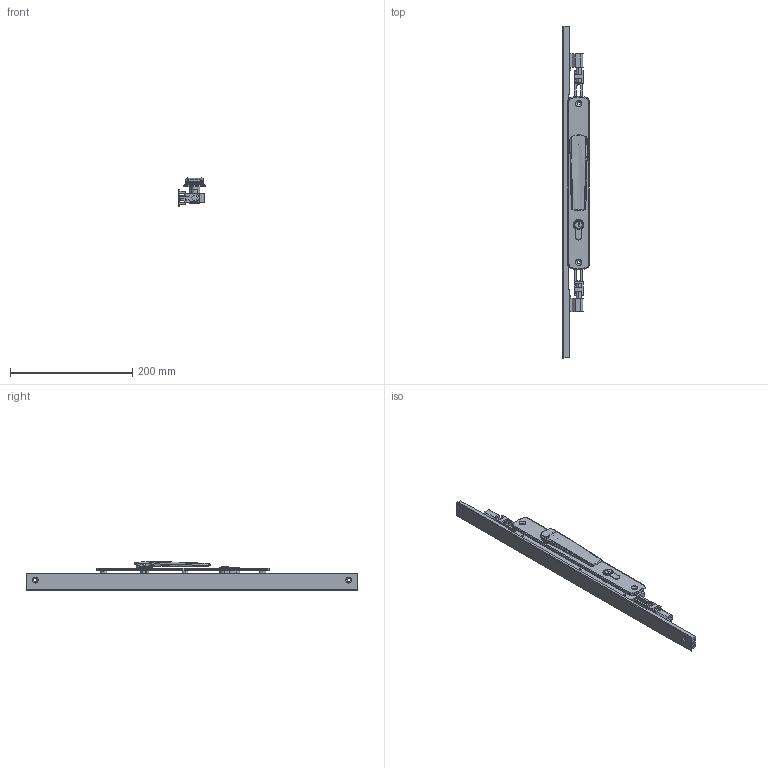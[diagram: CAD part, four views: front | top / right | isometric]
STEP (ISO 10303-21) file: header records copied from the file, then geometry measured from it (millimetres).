
FILE_DESCRIPTION (( 'STEP AP214' ), '1' );
FILE_NAME ('TPL-W-EU-621-L 06Nov2024.STEP', '2024-11-27T05:31:25', ( '' ), ( '' ), 'SwSTEP 2.0', 'SolidWorks 2023', '' );
FILE_SCHEMA (( 'AUTOMOTIVE_DESIGN' ));
Length unit declared in the file: millimetre
Products named in the file (19): Copy of TPL-W-EU-130 04Nov2024^TPL-W-EU-121 04Nov2024_TPL-022 Right; Copy of Copy of Copy of LKC-531 Lock twinpoint transmission rod wood system^TPL-W-EU-121 04Nov2024_Standard Range 2891.7mm; Copy of Adapter DnF - simplfied^TPL-W-EU-121 04Nov2024_26mm backset; Copy of TPGen2 handle keyed internal zinc - simplified^TPL-W-EU-121 04Nov2024_Vertical; Copy (2) of COV-112-B Cover B suit TPLGen2 standard range^TPL-W-EU-121 04Nov2024_2870mm; Copy of COV-112-A Cover A suit TPLGen2 standard range^TPL-W-EU-121 04Nov2024_2870mm; Copy of LKC-512 Escutcheon plate keyed internal 285mm long zinc - simplified^Copy of TPGen2 handle keyed internal zinc - simplified_TPL-W-EU-121 04Nov2024; Copy of LKC-584 Pivot body zinc - simplified^Copy of TPGen2 handle keyed internal zinc - simplified_TPL-W-EU-121 04Nov2024; Copy of TPLGen2 lock body keyed^Copy of TPLGen2 lock body keyed assembly_TPL-W-EU-121 04Nov2024; Copy of LKC-585 Rotator body zinc^Copy of TPGen2 handle keyed internal zinc - simplified_TPL-W-EU-121 04Nov2024; TPL-W-EU-621-L 06Nov2024; Copy of LKC-586 Spindle square 8mm with M4 hole^Copy of TPGen2 handle keyed internal zinc - simplified_TPL-W-EU-121 04Nov2024_25mm; Copy of TPLGen2 lock body keyed assembly^TPL-W-EU-121 04Nov2024_Bolts extended; Copy of Adapter CnE - simplfied^TPL-W-EU-121 04Nov2024_26mm backset; Copy of LKC-505 Swing handle zinc - simplified^Copy of TPGen2 handle keyed internal zinc - simplified_TPL-W-EU-121 04Nov2024; Copy of COV-112-C Cover C TPLGen2 Lock body^TPL-W-EU-121 04Nov2024; Copy of Copy of LKC-531 Lock twinpoint transmission rod wood system^TPL-W-EU-121 04Nov2024_Standard Range 2891.7mm; Bolt.step; TPLGen2 push rod - simplified^Copy of TPLGen2 lock body keyed assembly_TPL-W-EU-121 04Nov2024_Female thread M10
Assembly tree (16 placements, depth 3):
  Copy (2) of COV-112-B Cover B suit TPLGen2 standard range^TPL-W-EU-121 04Nov2024_2870mm
  Copy of COV-112-A Cover A suit TPLGen2 standard range^TPL-W-EU-121 04Nov2024_2870mm
  TPL-W-EU-621-L 06Nov2024
    Copy of TPLGen2 lock body keyed assembly^TPL-W-EU-121 04Nov2024_Bolts extended
      Copy of TPLGen2 lock body keyed^Copy of TPLGen2 lock body keyed assembly_TPL-W-EU-121 04Nov2024
      TPLGen2 push rod - simplified^Copy of TPLGen2 lock body keyed assembly_TPL-W-EU-121 04Nov2024_Female thread M10  x2
    Copy of TPGen2 handle keyed internal zinc - simplified^TPL-W-EU-121 04Nov2024_Vertical
      Copy of LKC-512 Escutcheon plate keyed internal 285mm long zinc - simplified^Copy of TPGen2 handle keyed internal zinc - simplified_TPL-W-EU-121 04Nov2024
      Copy of LKC-505 Swing handle zinc - simplified^Copy of TPGen2 handle keyed internal zinc - simplified_TPL-W-EU-121 04Nov2024
      Copy of LKC-585 Rotator body zinc^Copy of TPGen2 handle keyed internal zinc - simplified_TPL-W-EU-121 04Nov2024
      Copy of LKC-586 Spindle square 8mm with M4 hole^Copy of TPGen2 handle keyed internal zinc - simplified_TPL-W-EU-121 04Nov2024_25mm
      Copy of LKC-584 Pivot body zinc - simplified^Copy of TPGen2 handle keyed internal zinc - simplified_TPL-W-EU-121 04Nov2024
    Copy of TPL-W-EU-130 04Nov2024^TPL-W-EU-121 04Nov2024_TPL-022 Right
    Copy of COV-112-C Cover C TPLGen2 Lock body^TPL-W-EU-121 04Nov2024
    Copy of Copy of LKC-531 Lock twinpoint transmission rod wood system^TPL-W-EU-121 04Nov2024_Standard Range 2891.7mm
    Copy of Copy of Copy of LKC-531 Lock twinpoint transmission rod wood system^TPL-W-EU-121 04Nov2024_Standard Range 2891.7mm
    Copy of Adapter DnF - simplfied^TPL-W-EU-121 04Nov2024_26mm backset
    Copy of Adapter CnE - simplfied^TPL-W-EU-121 04Nov2024_26mm backset
  Bolt.step
Bounding box: 43.5 x 544 x 46.26 mm (x, y, z)
Volume: 281244 mm3; surface area: 138721.9 mm2
Topology: 14 solids, 14 shells, 920 faces, 2290 edges, 1428 vertices
Faces by surface type: plane 325, bspline 241, cylinder 229, cone 71, torus 46, sphere 8
Entity records: 33075 total; most frequent: CARTESIAN_POINT 13046, ORIENTED_EDGE 4388, DIRECTION 3625, EDGE_CURVE 2194, VERTEX_POINT 1368, AXIS2_PLACEMENT_3D 1333, EDGE_LOOP 984, LINE 959
